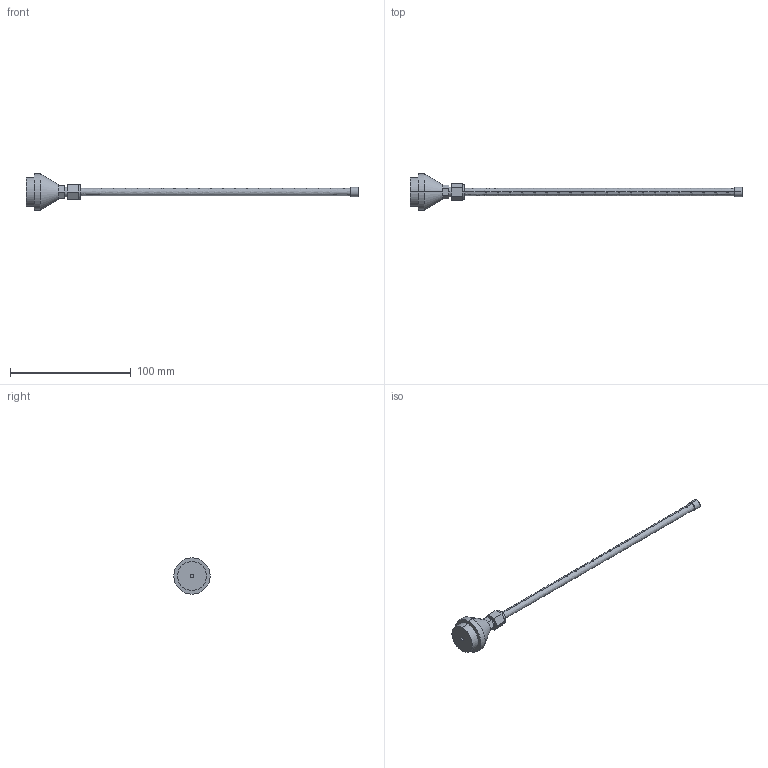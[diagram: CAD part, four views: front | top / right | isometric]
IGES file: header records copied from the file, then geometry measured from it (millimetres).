
Start section: SolidWorks IGES FILE using analytic representation for surfaces
Global section: file name: \\intra-srv04\開発データ\CAD_Data\CAD委員会\3D電子ｶﾀﾛｸﾞ\製品カタログ（新）\0_IGES\ER-AB20.IGS,41HSolidWorks 2004; native system: by SolidWorks Corporation; preprocessor: Version 5.3; author: mf1158; date: 050905.093257; units: millimetre
Bounding box: 275 x 30 x 30 mm (x, y, z)
Volume: 18793.7 mm3; surface area: 10809.9 mm2
Topology: 1 solids, 1 shells, 85 faces, 260 edges, 142 vertices
Faces by surface type: revolution 58, plane 27
